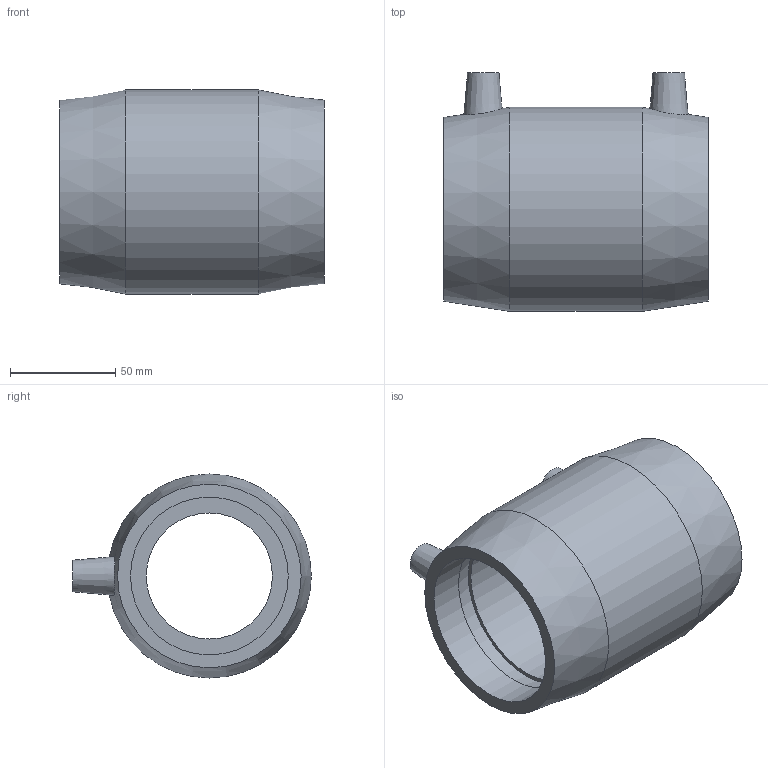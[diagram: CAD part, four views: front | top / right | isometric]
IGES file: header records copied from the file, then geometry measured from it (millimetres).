
Global section: file name: 450104075.ipt; native system: Autodesk Inventor 2015; preprocessor: unknown; author: KIM; date: 20171106.093349; units: millimetre
Bounding box: 126 x 113.5 x 97 mm (x, y, z)
Volume: 335390.3 mm3; surface area: 77550.5 mm2
Topology: 1 solids, 1 shells, 28 faces, 64 edges, 46 vertices
Faces by surface type: plane 12, revolution 9, cone 4, cylinder 3
Full cylindrical faces by diameter (mm): 4 x2, 97 x1
